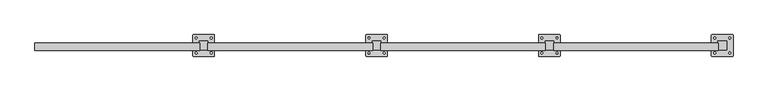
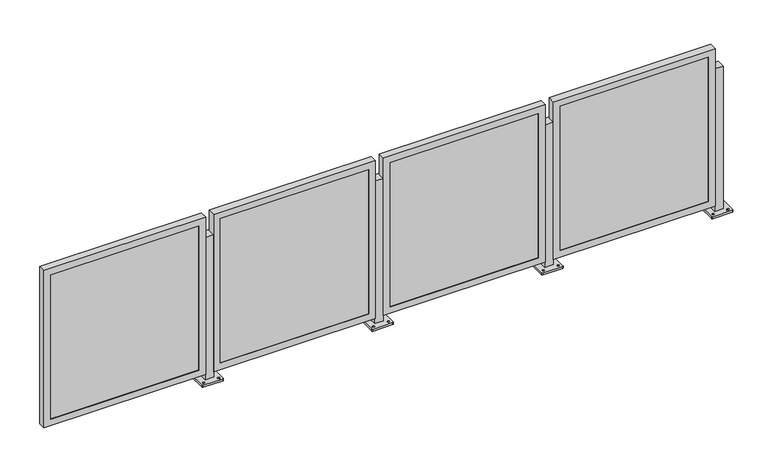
"""IFC4 building model written with IfcOpenShell, lengths in millimetres: railing geometry, Railing - Amico Architectural - Perforated Railing - Venetian."""

from ifc_helpers import new_model, si_unit, frame, origin, place, context, project, spatial, polyline, circle_curve, outline, extrude, faceted_brep, source, transform, mapped, element, save
from ifc_brep_helpers import plane_surface, cylinder_surface, revolved_surface, advanced_brep


def railing_f4e55a87(model_context):
    return source(origin(), model_context, "Body", "SolidModel", [
        advanced_brep(
        [(-7234.0306556, -6822.178618, 914.4), (-7234.0306556, -6872.978618, 914.4), (-7183.2306556, -6872.978618, 914.4), (-7183.2306556, -6822.178618, 914.4), (-7272.1306557, -6907.903577, 0.0), (-7272.1306557, -6787.2536591, 0.0), (-7268.9556276, -6784.0786309, 0.0), (-7148.3056836, -6784.0786309, 0.0), (-7145.1306554, -6787.2536591, 0.0), (-7145.1306554, -6907.903577, 0.0), (-7148.3056836, -6911.0786052, 0.0), (-7268.9556276, -6911.0786052, 0.0), (-7253.0806431, -6897.5848727, 0.0), (-7253.0806431, -6886.4723602, 0.0), (-7253.080654, -6808.6848683, 0.0), (-7253.080654, -6797.5723867, 0.0), (-7164.1806422, -6897.5848711, 0.0), (-7164.1806422, -6886.4723605, 0.0), (-7164.1806531, -6808.6848668, 0.0), (-7164.1806531, -6797.572387, 0.0), (-7234.0306556, -6822.178618, 12.7), (-7234.0306556, -6872.978618, 12.7), (-7183.2306556, -6872.978618, 12.7), (-7183.2306556, -6822.178618, 12.7), (-7272.1306557, -6907.903577, 12.7), (-7268.9556276, -6911.0786052, 12.7), (-7148.3056836, -6911.0786052, 12.7), (-7145.1306554, -6907.903577, 12.7), (-7145.1306554, -6787.2536591, 12.7), (-7148.3056836, -6784.0786309, 12.7), (-7268.9556276, -6784.0786309, 12.7), (-7272.1306557, -6787.2536591, 12.7), (-7253.0806431, -6897.5848727, 12.7), (-7253.0806431, -6886.4723602, 12.7), (-7253.080654, -6808.6848683, 12.7), (-7253.080654, -6797.5723867, 12.7), (-7164.1806422, -6897.5848711, 12.7), (-7164.1806422, -6886.4723605, 12.7), (-7164.1806531, -6808.6848668, 12.7), (-7164.1806531, -6797.572387, 12.7)],
        [
            (0, 1),
            (1, 2),
            (2, 3),
            (3, 0),
            (4, 5),
            (5, 6, circle_curve(frame((-7268.9556276, -6787.2536591, 0.0), z_axis=(0.0, 0.0, -1.0), x_axis=(0.0, 1.0, 0.0)), 3.1750282)),
            (6, 7),
            (7, 8, circle_curve(frame((-7148.3056836, -6787.2536591, 0.0), z_axis=(0.0, 0.0, -1.0), x_axis=(0.0, 1.0, 0.0)), 3.1750282)),
            (8, 9),
            (9, 10, circle_curve(frame((-7148.3056836, -6907.903577, 0.0), z_axis=(0.0, 0.0, -1.0), x_axis=(0.0, 1.0, 0.0)), 3.1750282)),
            (10, 11),
            (11, 4, circle_curve(frame((-7268.9556276, -6907.903577, 0.0), z_axis=(0.0, 0.0, -1.0), x_axis=(0.0, 1.0, 0.0)), 3.1750282)),
            (12, 13, circle_curve(frame((-7253.0806431, -6892.0286164, 0.0), z_axis=(0.0, 0.0, 1.0), x_axis=(0.0, 1.0, 0.0)), 5.5562562)),
            (13, 12, circle_curve(frame((-7253.0806431, -6892.0286164, 0.0), z_axis=(0.0, 0.0, 1.0), x_axis=(0.0, 1.0, 0.0)), 5.5562562)),
            (14, 15, circle_curve(frame((-7253.080654, -6803.1286275, 0.0), z_axis=(0.0, 0.0, 1.0), x_axis=(0.0, 1.0, 0.0)), 5.5562408)),
            (15, 14, circle_curve(frame((-7253.080654, -6803.1286275, 0.0), z_axis=(0.0, 0.0, 1.0), x_axis=(0.0, 1.0, 0.0)), 5.5562408)),
            (16, 17, circle_curve(frame((-7164.1806422, -6892.0286158, 0.0), z_axis=(0.0, 0.0, 1.0), x_axis=(0.0, 1.0, 0.0)), 5.5562553)),
            (17, 16, circle_curve(frame((-7164.1806422, -6892.0286158, 0.0), z_axis=(0.0, 0.0, 1.0), x_axis=(0.0, 1.0, 0.0)), 5.5562553)),
            (18, 19, circle_curve(frame((-7164.1806531, -6803.1286269, 0.0), z_axis=(0.0, 0.0, 1.0), x_axis=(0.0, 1.0, 0.0)), 5.5562399)),
            (19, 18, circle_curve(frame((-7164.1806531, -6803.1286269, 0.0), z_axis=(0.0, 0.0, 1.0), x_axis=(0.0, 1.0, 0.0)), 5.5562399)),
            (0, 20),
            (20, 21),
            (21, 1),
            (21, 22),
            (22, 2),
            (22, 23),
            (23, 3),
            (23, 20),
            (24, 25, circle_curve(frame((-7268.9556276, -6907.903577, 12.7), z_axis=(0.0, 0.0, 1.0), x_axis=(0.0, 1.0, 0.0)), 3.1750282)),
            (25, 26),
            (26, 27, circle_curve(frame((-7148.3056836, -6907.903577, 12.7), z_axis=(0.0, 0.0, 1.0), x_axis=(0.0, 1.0, 0.0)), 3.1750282)),
            (27, 28),
            (28, 29, circle_curve(frame((-7148.3056836, -6787.2536591, 12.7), z_axis=(0.0, 0.0, 1.0), x_axis=(0.0, 1.0, 0.0)), 3.1750282)),
            (29, 30),
            (30, 31, circle_curve(frame((-7268.9556276, -6787.2536591, 12.7), z_axis=(0.0, 0.0, 1.0), x_axis=(0.0, 1.0, 0.0)), 3.1750282)),
            (31, 24),
            (32, 33, circle_curve(frame((-7253.0806431, -6892.0286164, 12.7), z_axis=(0.0, 0.0, -1.0), x_axis=(0.0, 1.0, 0.0)), 5.5562562)),
            (33, 32, circle_curve(frame((-7253.0806431, -6892.0286164, 12.7), z_axis=(0.0, 0.0, -1.0), x_axis=(0.0, 1.0, 0.0)), 5.5562562)),
            (34, 35, circle_curve(frame((-7253.080654, -6803.1286275, 12.7), z_axis=(0.0, 0.0, -1.0), x_axis=(0.0, 1.0, 0.0)), 5.5562408)),
            (35, 34, circle_curve(frame((-7253.080654, -6803.1286275, 12.7), z_axis=(0.0, 0.0, -1.0), x_axis=(0.0, 1.0, 0.0)), 5.5562408)),
            (36, 37, circle_curve(frame((-7164.1806422, -6892.0286158, 12.7), z_axis=(0.0, 0.0, -1.0), x_axis=(0.0, 1.0, 0.0)), 5.5562553)),
            (37, 36, circle_curve(frame((-7164.1806422, -6892.0286158, 12.7), z_axis=(0.0, 0.0, -1.0), x_axis=(0.0, 1.0, 0.0)), 5.5562553)),
            (38, 39, circle_curve(frame((-7164.1806531, -6803.1286269, 12.7), z_axis=(0.0, 0.0, -1.0), x_axis=(0.0, 1.0, 0.0)), 5.5562399)),
            (39, 38, circle_curve(frame((-7164.1806531, -6803.1286269, 12.7), z_axis=(0.0, 0.0, -1.0), x_axis=(0.0, 1.0, 0.0)), 5.5562399)),
            (24, 4),
            (11, 25),
            (10, 26),
            (9, 27),
            (8, 28),
            (7, 29),
            (6, 30),
            (5, 31),
            (32, 12),
            (13, 33),
            (34, 14),
            (15, 35),
            (36, 16),
            (17, 37),
            (38, 18),
            (19, 39),
        ],
        [
            plane_surface(frame((-7234.0306556, -6872.978618, 914.4), z_axis=(0.0, 0.0, 1.0), x_axis=(0.0, -1.0, 0.0))),
            plane_surface(frame((-7234.0306556, -6872.978618, 0.0), z_axis=(0.0, 0.0, -1.0), x_axis=(0.0, 1.0, 0.0))),
            plane_surface(frame((-7234.0306556, -6822.178618, 914.4), z_axis=(-1.0, 0.0, 0.0), x_axis=(0.0, 0.0, -1.0))),
            plane_surface(frame((-7234.0306556, -6872.978618, 914.4), z_axis=(0.0, -1.0, 0.0), x_axis=(0.0, 0.0, -1.0))),
            plane_surface(frame((-7183.2306556, -6872.978618, 914.4), z_axis=(1.0, 0.0, 0.0), x_axis=(0.0, 0.0, -1.0))),
            plane_surface(frame((-7183.2306556, -6822.178618, 914.4), z_axis=(0.0, 1.0, 0.0), x_axis=(0.0, 0.0, -1.0))),
            plane_surface(frame((-7268.9556276, -6904.7285488, 12.7), z_axis=(0.0, 0.0, 1.0), x_axis=(-1.0, 0.0, 0.0))),
            cylinder_surface(frame((-7268.9556276, -6907.903577, 0.0), z_axis=(0.0, 0.0, 1.0), x_axis=(0.0, 1.0, 0.0)), 3.1750282),
            plane_surface(frame((-7268.9556276, -6911.0786052, 12.7), z_axis=(1.1945386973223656e-12, -1.0, 0.0), x_axis=(0.0, 0.0, -1.0))),
            cylinder_surface(frame((-7148.3056836, -6907.903577, 0.0), z_axis=(0.0, 0.0, 1.0), x_axis=(0.0, 1.0, 0.0)), 3.1750282),
            plane_surface(frame((-7145.1306554, -6907.903577, 12.7), z_axis=(1.0, 0.0, 0.0), x_axis=(0.0, 0.0, -1.0))),
            cylinder_surface(frame((-7148.3056836, -6787.2536591, 0.0), z_axis=(0.0, 0.0, 1.0), x_axis=(0.0, 1.0, 0.0)), 3.1750282),
            plane_surface(frame((-7148.3056836, -6784.0786309, 12.7), z_axis=(-1.1946088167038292e-12, 1.0, 0.0), x_axis=(0.0, 0.0, -1.0))),
            cylinder_surface(frame((-7268.9556276, -6787.2536591, 0.0), z_axis=(0.0, 0.0, 1.0), x_axis=(0.0, 1.0, 0.0)), 3.1750282),
            plane_surface(frame((-7272.1306557, -6787.2536591, 12.7), z_axis=(-1.0, 0.0, 0.0), x_axis=(0.0, 0.0, -1.0))),
            revolved_surface(polyline([(-7253.0806431, -6886.4723602, 0.0), (-7253.0806431, -6886.4723602, 12.7)]), (-7253.0806431, -6892.0286164, 0.0), (0.0, 0.0, -1.0)),
            revolved_surface(polyline([(-7253.080654, -6797.572386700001, 0.0), (-7253.080654, -6797.572386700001, 12.7)]), (-7253.080654, -6803.1286275, 0.0), (0.0, 0.0, -1.0)),
            revolved_surface(polyline([(-7164.1806422, -6886.4723605, 0.0), (-7164.1806422, -6886.4723605, 12.7)]), (-7164.1806422, -6892.0286158, 0.0), (0.0, 0.0, -1.0)),
            revolved_surface(polyline([(-7164.1806531, -6797.572387, 0.0), (-7164.1806531, -6797.572387, 12.7)]), (-7164.1806531, -6803.1286269, 0.0), (0.0, 0.0, -1.0)),
        ],
        [
            (0, [[1, 2, 3, 4]]),
            (1, [[5, 6, 7, 8, 9, 10, 11, 12], [13, 14], [15, 16], [17, 18], [19, 20]]),
            (2, [[-1, 21, 22, 23]]),
            (3, [[-2, -23, 24, 25]]),
            (4, [[-3, -25, 26, 27]]),
            (5, [[-4, -27, 28, -21]]),
            (6, [[29, 30, 31, 32, 33, 34, 35, 36], [-22, -28, -26, -24], [37, 38], [39, 40], [41, 42], [43, 44]]),
            (7, [[-29, 45, -12, 46]]),
            (8, [[-30, -46, -11, 47]]),
            (9, [[-31, -47, -10, 48]]),
            (10, [[-32, -48, -9, 49]]),
            (11, [[-33, -49, -8, 50]]),
            (12, [[-34, -50, -7, 51]]),
            (13, [[-35, -51, -6, 52]]),
            (14, [[-36, -52, -5, -45]]),
            (15, [[-37, 53, -14, 54]]),
            (15, [[-38, -54, -13, -53]]),
            (16, [[-39, 55, -16, 56]]),
            (16, [[-40, -56, -15, -55]]),
            (17, [[-41, 57, -18, 58]]),
            (17, [[-42, -58, -17, -57]]),
            (18, [[-43, 59, -20, 60]]),
            (18, [[-44, -60, -19, -59]]),
        ],
    ),
        faceted_brep([(-8200.435109, -6875.721818, 47.625), (-7232.060109, -6875.721818, 47.625), (-7232.060109, -6875.721818, 1044.575), (-8200.435109, -6875.721818, 1044.575), (-8159.160109, -6875.721818, 1003.3), (-7273.335109, -6875.721818, 1003.3), (-7273.335109, -6875.721818, 88.9), (-8159.160109, -6875.721818, 88.9), (-8159.160109, -6872.978618, 1003.3), (-8159.160109, -6872.978618, 88.9), (-8200.435109, -6831.8485215, 1044.575), (-8200.435109, -6831.8485215, 47.625), (-8197.260109, -6831.8485215, 1041.4), (-8197.260109, -6872.978618, 1041.4), (-8197.260109, -6872.978618, 50.8), (-8197.260109, -6831.8485215, 50.8), (-7273.335109, -6872.978618, 88.9), (-7232.060109, -6831.8485215, 47.625), (-7235.235109, -6872.978618, 50.8), (-7235.235109, -6831.8485215, 50.8), (-7273.335109, -6872.978618, 1003.3), (-7232.060109, -6831.8485215, 1044.575), (-7235.235109, -6872.978618, 1041.4), (-7235.235109, -6831.8485215, 1041.4)], [[[0, 1, 2, 3], [4, 5, 6, 7]], [[8, 4, 7, 9]], [[3, 10, 11, 0]], [[12, 13, 14, 15]], [[9, 7, 6, 16]], [[0, 11, 17, 1]], [[15, 14, 18, 19]], [[16, 6, 5, 20]], [[1, 17, 21, 2]], [[19, 18, 22, 23]], [[20, 5, 4, 8]], [[10, 21, 17, 11], [15, 19, 23, 12]], [[2, 21, 10, 3]], [[13, 22, 18, 14], [9, 16, 20, 8]], [[23, 22, 13, 12]]]),
        extrude(outline(polyline([(-8197.260109, -6863.453618), (-7235.235109, -6863.453618), (-7235.235109, -6872.978618), (-8197.260109, -6872.978618), (-8197.260109, -6863.453618)])), frame((0.0, 0.0, 50.8), z_axis=(0.0, 0.0, 1.0), x_axis=(1.0, 0.0, 0.0)), (0.0, 0.0, 1.0), 990.6),
        advanced_brep(
        [(-8250.0306556, -6822.178618, 914.4), (-8250.0306556, -6872.978618, 914.4), (-8199.2306556, -6872.978618, 914.4), (-8199.2306556, -6822.178618, 914.4), (-8288.1306557, -6907.903577, 0.0), (-8288.1306557, -6787.2536591, 0.0), (-8284.9556276, -6784.0786309, 0.0), (-8164.3056836, -6784.0786309, 0.0), (-8161.1306554, -6787.2536591, 0.0), (-8161.1306554, -6907.903577, 0.0), (-8164.3056836, -6911.0786052, 0.0), (-8284.9556276, -6911.0786052, 0.0), (-8269.0806431, -6897.5848727, 0.0), (-8269.0806431, -6886.4723602, 0.0), (-8269.080654, -6808.6848683, 0.0), (-8269.080654, -6797.5723867, 0.0), (-8180.1806422, -6897.5848711, 0.0), (-8180.1806422, -6886.4723605, 0.0), (-8180.1806531, -6808.6848668, 0.0), (-8180.1806531, -6797.572387, 0.0), (-8250.0306556, -6822.178618, 12.7), (-8250.0306556, -6872.978618, 12.7), (-8199.2306556, -6872.978618, 12.7), (-8199.2306556, -6822.178618, 12.7), (-8288.1306557, -6907.903577, 12.7), (-8284.9556276, -6911.0786052, 12.7), (-8164.3056836, -6911.0786052, 12.7), (-8161.1306554, -6907.903577, 12.7), (-8161.1306554, -6787.2536591, 12.7), (-8164.3056836, -6784.0786309, 12.7), (-8284.9556276, -6784.0786309, 12.7), (-8288.1306557, -6787.2536591, 12.7), (-8269.0806431, -6897.5848727, 12.7), (-8269.0806431, -6886.4723602, 12.7), (-8269.080654, -6808.6848683, 12.7), (-8269.080654, -6797.5723867, 12.7), (-8180.1806422, -6897.5848711, 12.7), (-8180.1806422, -6886.4723605, 12.7), (-8180.1806531, -6808.6848668, 12.7), (-8180.1806531, -6797.572387, 12.7)],
        [
            (0, 1),
            (1, 2),
            (2, 3),
            (3, 0),
            (4, 5),
            (5, 6, circle_curve(frame((-8284.9556276, -6787.2536591, 0.0), z_axis=(0.0, 0.0, -1.0), x_axis=(0.0, 1.0, 0.0)), 3.1750282)),
            (6, 7),
            (7, 8, circle_curve(frame((-8164.3056836, -6787.2536591, 0.0), z_axis=(0.0, 0.0, -1.0), x_axis=(0.0, 1.0, 0.0)), 3.1750282)),
            (8, 9),
            (9, 10, circle_curve(frame((-8164.3056836, -6907.903577, 0.0), z_axis=(0.0, 0.0, -1.0), x_axis=(0.0, 1.0, 0.0)), 3.1750282)),
            (10, 11),
            (11, 4, circle_curve(frame((-8284.9556276, -6907.903577, 0.0), z_axis=(0.0, 0.0, -1.0), x_axis=(0.0, 1.0, 0.0)), 3.1750282)),
            (12, 13, circle_curve(frame((-8269.0806431, -6892.0286164, 0.0), z_axis=(0.0, 0.0, 1.0), x_axis=(0.0, 1.0, 0.0)), 5.5562562)),
            (13, 12, circle_curve(frame((-8269.0806431, -6892.0286164, 0.0), z_axis=(0.0, 0.0, 1.0), x_axis=(0.0, 1.0, 0.0)), 5.5562562)),
            (14, 15, circle_curve(frame((-8269.080654, -6803.1286275, 0.0), z_axis=(0.0, 0.0, 1.0), x_axis=(0.0, 1.0, 0.0)), 5.5562408)),
            (15, 14, circle_curve(frame((-8269.080654, -6803.1286275, 0.0), z_axis=(0.0, 0.0, 1.0), x_axis=(0.0, 1.0, 0.0)), 5.5562408)),
            (16, 17, circle_curve(frame((-8180.1806422, -6892.0286158, 0.0), z_axis=(0.0, 0.0, 1.0), x_axis=(0.0, 1.0, 0.0)), 5.5562553)),
            (17, 16, circle_curve(frame((-8180.1806422, -6892.0286158, 0.0), z_axis=(0.0, 0.0, 1.0), x_axis=(0.0, 1.0, 0.0)), 5.5562553)),
            (18, 19, circle_curve(frame((-8180.1806531, -6803.1286269, 0.0), z_axis=(0.0, 0.0, 1.0), x_axis=(0.0, 1.0, 0.0)), 5.5562399)),
            (19, 18, circle_curve(frame((-8180.1806531, -6803.1286269, 0.0), z_axis=(0.0, 0.0, 1.0), x_axis=(0.0, 1.0, 0.0)), 5.5562399)),
            (0, 20),
            (20, 21),
            (21, 1),
            (21, 22),
            (22, 2),
            (22, 23),
            (23, 3),
            (23, 20),
            (24, 25, circle_curve(frame((-8284.9556276, -6907.903577, 12.7), z_axis=(0.0, 0.0, 1.0), x_axis=(0.0, 1.0, 0.0)), 3.1750282)),
            (25, 26),
            (26, 27, circle_curve(frame((-8164.3056836, -6907.903577, 12.7), z_axis=(0.0, 0.0, 1.0), x_axis=(0.0, 1.0, 0.0)), 3.1750282)),
            (27, 28),
            (28, 29, circle_curve(frame((-8164.3056836, -6787.2536591, 12.7), z_axis=(0.0, 0.0, 1.0), x_axis=(0.0, 1.0, 0.0)), 3.1750282)),
            (29, 30),
            (30, 31, circle_curve(frame((-8284.9556276, -6787.2536591, 12.7), z_axis=(0.0, 0.0, 1.0), x_axis=(0.0, 1.0, 0.0)), 3.1750282)),
            (31, 24),
            (32, 33, circle_curve(frame((-8269.0806431, -6892.0286164, 12.7), z_axis=(0.0, 0.0, -1.0), x_axis=(0.0, 1.0, 0.0)), 5.5562562)),
            (33, 32, circle_curve(frame((-8269.0806431, -6892.0286164, 12.7), z_axis=(0.0, 0.0, -1.0), x_axis=(0.0, 1.0, 0.0)), 5.5562562)),
            (34, 35, circle_curve(frame((-8269.080654, -6803.1286275, 12.7), z_axis=(0.0, 0.0, -1.0), x_axis=(0.0, 1.0, 0.0)), 5.5562408)),
            (35, 34, circle_curve(frame((-8269.080654, -6803.1286275, 12.7), z_axis=(0.0, 0.0, -1.0), x_axis=(0.0, 1.0, 0.0)), 5.5562408)),
            (36, 37, circle_curve(frame((-8180.1806422, -6892.0286158, 12.7), z_axis=(0.0, 0.0, -1.0), x_axis=(0.0, 1.0, 0.0)), 5.5562553)),
            (37, 36, circle_curve(frame((-8180.1806422, -6892.0286158, 12.7), z_axis=(0.0, 0.0, -1.0), x_axis=(0.0, 1.0, 0.0)), 5.5562553)),
            (38, 39, circle_curve(frame((-8180.1806531, -6803.1286269, 12.7), z_axis=(0.0, 0.0, -1.0), x_axis=(0.0, 1.0, 0.0)), 5.5562399)),
            (39, 38, circle_curve(frame((-8180.1806531, -6803.1286269, 12.7), z_axis=(0.0, 0.0, -1.0), x_axis=(0.0, 1.0, 0.0)), 5.5562399)),
            (24, 4),
            (11, 25),
            (10, 26),
            (9, 27),
            (8, 28),
            (7, 29),
            (6, 30),
            (5, 31),
            (32, 12),
            (13, 33),
            (34, 14),
            (15, 35),
            (36, 16),
            (17, 37),
            (38, 18),
            (19, 39),
        ],
        [
            plane_surface(frame((-8250.0306556, -6872.978618, 914.4), z_axis=(0.0, 0.0, 1.0), x_axis=(0.0, -1.0, 0.0))),
            plane_surface(frame((-8250.0306556, -6872.978618, 0.0), z_axis=(0.0, 0.0, -1.0), x_axis=(0.0, 1.0, 0.0))),
            plane_surface(frame((-8250.0306556, -6822.178618, 914.4), z_axis=(-1.0, 0.0, 0.0), x_axis=(0.0, 0.0, -1.0))),
            plane_surface(frame((-8250.0306556, -6872.978618, 914.4), z_axis=(0.0, -1.0, 0.0), x_axis=(0.0, 0.0, -1.0))),
            plane_surface(frame((-8199.2306556, -6872.978618, 914.4), z_axis=(1.0, 0.0, 0.0), x_axis=(0.0, 0.0, -1.0))),
            plane_surface(frame((-8199.2306556, -6822.178618, 914.4), z_axis=(0.0, 1.0, 0.0), x_axis=(0.0, 0.0, -1.0))),
            plane_surface(frame((-8284.9556276, -6904.7285488, 12.7), z_axis=(0.0, 0.0, 1.0), x_axis=(-1.0, 0.0, 0.0))),
            cylinder_surface(frame((-8284.9556276, -6907.903577, 0.0), z_axis=(0.0, 0.0, 1.0), x_axis=(0.0, 1.0, 0.0)), 3.1750282),
            plane_surface(frame((-8284.9556276, -6911.0786052, 12.7), z_axis=(1.1945386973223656e-12, -1.0, 0.0), x_axis=(0.0, 0.0, -1.0))),
            cylinder_surface(frame((-8164.3056836, -6907.903577, 0.0), z_axis=(0.0, 0.0, 1.0), x_axis=(0.0, 1.0, 0.0)), 3.1750282),
            plane_surface(frame((-8161.1306554, -6907.903577, 12.7), z_axis=(1.0, 0.0, 0.0), x_axis=(0.0, 0.0, -1.0))),
            cylinder_surface(frame((-8164.3056836, -6787.2536591, 0.0), z_axis=(0.0, 0.0, 1.0), x_axis=(0.0, 1.0, 0.0)), 3.1750282),
            plane_surface(frame((-8164.3056836, -6784.0786309, 12.7), z_axis=(-1.1946088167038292e-12, 1.0, 0.0), x_axis=(0.0, 0.0, -1.0))),
            cylinder_surface(frame((-8284.9556276, -6787.2536591, 0.0), z_axis=(0.0, 0.0, 1.0), x_axis=(0.0, 1.0, 0.0)), 3.1750282),
            plane_surface(frame((-8288.1306557, -6787.2536591, 12.7), z_axis=(-1.0, 0.0, 0.0), x_axis=(0.0, 0.0, -1.0))),
            revolved_surface(polyline([(-8269.0806431, -6886.4723602, 0.0), (-8269.0806431, -6886.4723602, 12.7)]), (-8269.0806431, -6892.0286164, 0.0), (0.0, 0.0, -1.0)),
            revolved_surface(polyline([(-8269.080654, -6797.572386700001, 0.0), (-8269.080654, -6797.572386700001, 12.7)]), (-8269.080654, -6803.1286275, 0.0), (0.0, 0.0, -1.0)),
            revolved_surface(polyline([(-8180.1806422, -6886.4723605, 0.0), (-8180.1806422, -6886.4723605, 12.7)]), (-8180.1806422, -6892.0286158, 0.0), (0.0, 0.0, -1.0)),
            revolved_surface(polyline([(-8180.1806531, -6797.572387, 0.0), (-8180.1806531, -6797.572387, 12.7)]), (-8180.1806531, -6803.1286269, 0.0), (0.0, 0.0, -1.0)),
        ],
        [
            (0, [[1, 2, 3, 4]]),
            (1, [[5, 6, 7, 8, 9, 10, 11, 12], [13, 14], [15, 16], [17, 18], [19, 20]]),
            (2, [[-1, 21, 22, 23]]),
            (3, [[-2, -23, 24, 25]]),
            (4, [[-3, -25, 26, 27]]),
            (5, [[-4, -27, 28, -21]]),
            (6, [[29, 30, 31, 32, 33, 34, 35, 36], [-22, -28, -26, -24], [37, 38], [39, 40], [41, 42], [43, 44]]),
            (7, [[-29, 45, -12, 46]]),
            (8, [[-30, -46, -11, 47]]),
            (9, [[-31, -47, -10, 48]]),
            (10, [[-32, -48, -9, 49]]),
            (11, [[-33, -49, -8, 50]]),
            (12, [[-34, -50, -7, 51]]),
            (13, [[-35, -51, -6, 52]]),
            (14, [[-36, -52, -5, -45]]),
            (15, [[-37, 53, -14, 54]]),
            (15, [[-38, -54, -13, -53]]),
            (16, [[-39, 55, -16, 56]]),
            (16, [[-40, -56, -15, -55]]),
            (17, [[-41, 57, -18, 58]]),
            (17, [[-42, -58, -17, -57]]),
            (18, [[-43, 59, -20, 60]]),
            (18, [[-44, -60, -19, -59]]),
        ],
    ),
        faceted_brep([(-9216.435109, -6875.721818, 47.625), (-8248.060109, -6875.721818, 47.625), (-8248.060109, -6875.721818, 1044.575), (-9216.435109, -6875.721818, 1044.575), (-9175.160109, -6875.721818, 1003.3), (-8289.335109, -6875.721818, 1003.3), (-8289.335109, -6875.721818, 88.9), (-9175.160109, -6875.721818, 88.9), (-9175.160109, -6872.978618, 1003.3), (-9175.160109, -6872.978618, 88.9), (-9216.435109, -6831.8485215, 1044.575), (-9216.435109, -6831.8485215, 47.625), (-9213.260109, -6831.8485215, 1041.4), (-9213.260109, -6872.978618, 1041.4), (-9213.260109, -6872.978618, 50.8), (-9213.260109, -6831.8485215, 50.8), (-8289.335109, -6872.978618, 88.9), (-8248.060109, -6831.8485215, 47.625), (-8251.235109, -6872.978618, 50.8), (-8251.235109, -6831.8485215, 50.8), (-8289.335109, -6872.978618, 1003.3), (-8248.060109, -6831.8485215, 1044.575), (-8251.235109, -6872.978618, 1041.4), (-8251.235109, -6831.8485215, 1041.4)], [[[0, 1, 2, 3], [4, 5, 6, 7]], [[8, 4, 7, 9]], [[3, 10, 11, 0]], [[12, 13, 14, 15]], [[9, 7, 6, 16]], [[0, 11, 17, 1]], [[15, 14, 18, 19]], [[16, 6, 5, 20]], [[1, 17, 21, 2]], [[19, 18, 22, 23]], [[20, 5, 4, 8]], [[10, 21, 17, 11], [15, 19, 23, 12]], [[2, 21, 10, 3]], [[13, 22, 18, 14], [9, 16, 20, 8]], [[23, 22, 13, 12]]]),
        extrude(outline(polyline([(-9213.260109, -6863.453618), (-8251.235109, -6863.453618), (-8251.235109, -6872.978618), (-9213.260109, -6872.978618), (-9213.260109, -6863.453618)])), frame((0.0, 0.0, 50.8), z_axis=(0.0, 0.0, 1.0), x_axis=(1.0, 0.0, 0.0)), (0.0, 0.0, 1.0), 990.6),
        advanced_brep(
        [(-9266.0306556, -6822.178618, 914.4), (-9266.0306556, -6872.978618, 914.4), (-9215.2306556, -6872.978618, 914.4), (-9215.2306556, -6822.178618, 914.4), (-9304.1306557, -6907.903577, 0.0), (-9304.1306557, -6787.2536591, 0.0), (-9300.9556276, -6784.0786309, 0.0), (-9180.3056836, -6784.0786309, 0.0), (-9177.1306554, -6787.2536591, 0.0), (-9177.1306554, -6907.903577, 0.0), (-9180.3056836, -6911.0786052, 0.0), (-9300.9556276, -6911.0786052, 0.0), (-9285.0806431, -6897.5848727, 0.0), (-9285.0806431, -6886.4723602, 0.0), (-9285.080654, -6808.6848683, 0.0), (-9285.080654, -6797.5723867, 0.0), (-9196.1806422, -6897.5848711, 0.0), (-9196.1806422, -6886.4723605, 0.0), (-9196.1806531, -6808.6848668, 0.0), (-9196.1806531, -6797.572387, 0.0), (-9266.0306556, -6822.178618, 12.7), (-9266.0306556, -6872.978618, 12.7), (-9215.2306556, -6872.978618, 12.7), (-9215.2306556, -6822.178618, 12.7), (-9304.1306557, -6907.903577, 12.7), (-9300.9556276, -6911.0786052, 12.7), (-9180.3056836, -6911.0786052, 12.7), (-9177.1306554, -6907.903577, 12.7), (-9177.1306554, -6787.2536591, 12.7), (-9180.3056836, -6784.0786309, 12.7), (-9300.9556276, -6784.0786309, 12.7), (-9304.1306557, -6787.2536591, 12.7), (-9285.0806431, -6897.5848727, 12.7), (-9285.0806431, -6886.4723602, 12.7), (-9285.080654, -6808.6848683, 12.7), (-9285.080654, -6797.5723867, 12.7), (-9196.1806422, -6897.5848711, 12.7), (-9196.1806422, -6886.4723605, 12.7), (-9196.1806531, -6808.6848668, 12.7), (-9196.1806531, -6797.572387, 12.7)],
        [
            (0, 1),
            (1, 2),
            (2, 3),
            (3, 0),
            (4, 5),
            (5, 6, circle_curve(frame((-9300.9556276, -6787.2536591, 0.0), z_axis=(0.0, 0.0, -1.0), x_axis=(0.0, 1.0, 0.0)), 3.1750282)),
            (6, 7),
            (7, 8, circle_curve(frame((-9180.3056836, -6787.2536591, 0.0), z_axis=(0.0, 0.0, -1.0), x_axis=(0.0, 1.0, 0.0)), 3.1750282)),
            (8, 9),
            (9, 10, circle_curve(frame((-9180.3056836, -6907.903577, 0.0), z_axis=(0.0, 0.0, -1.0), x_axis=(0.0, 1.0, 0.0)), 3.1750282)),
            (10, 11),
            (11, 4, circle_curve(frame((-9300.9556276, -6907.903577, 0.0), z_axis=(0.0, 0.0, -1.0), x_axis=(0.0, 1.0, 0.0)), 3.1750282)),
            (12, 13, circle_curve(frame((-9285.0806431, -6892.0286164, 0.0), z_axis=(0.0, 0.0, 1.0), x_axis=(0.0, 1.0, 0.0)), 5.5562562)),
            (13, 12, circle_curve(frame((-9285.0806431, -6892.0286164, 0.0), z_axis=(0.0, 0.0, 1.0), x_axis=(0.0, 1.0, 0.0)), 5.5562562)),
            (14, 15, circle_curve(frame((-9285.080654, -6803.1286275, 0.0), z_axis=(0.0, 0.0, 1.0), x_axis=(0.0, 1.0, 0.0)), 5.5562408)),
            (15, 14, circle_curve(frame((-9285.080654, -6803.1286275, 0.0), z_axis=(0.0, 0.0, 1.0), x_axis=(0.0, 1.0, 0.0)), 5.5562408)),
            (16, 17, circle_curve(frame((-9196.1806422, -6892.0286158, 0.0), z_axis=(0.0, 0.0, 1.0), x_axis=(0.0, 1.0, 0.0)), 5.5562553)),
            (17, 16, circle_curve(frame((-9196.1806422, -6892.0286158, 0.0), z_axis=(0.0, 0.0, 1.0), x_axis=(0.0, 1.0, 0.0)), 5.5562553)),
            (18, 19, circle_curve(frame((-9196.1806531, -6803.1286269, 0.0), z_axis=(0.0, 0.0, 1.0), x_axis=(0.0, 1.0, 0.0)), 5.5562399)),
            (19, 18, circle_curve(frame((-9196.1806531, -6803.1286269, 0.0), z_axis=(0.0, 0.0, 1.0), x_axis=(0.0, 1.0, 0.0)), 5.5562399)),
            (0, 20),
            (20, 21),
            (21, 1),
            (21, 22),
            (22, 2),
            (22, 23),
            (23, 3),
            (23, 20),
            (24, 25, circle_curve(frame((-9300.9556276, -6907.903577, 12.7), z_axis=(0.0, 0.0, 1.0), x_axis=(0.0, 1.0, 0.0)), 3.1750282)),
            (25, 26),
            (26, 27, circle_curve(frame((-9180.3056836, -6907.903577, 12.7), z_axis=(0.0, 0.0, 1.0), x_axis=(0.0, 1.0, 0.0)), 3.1750282)),
            (27, 28),
            (28, 29, circle_curve(frame((-9180.3056836, -6787.2536591, 12.7), z_axis=(0.0, 0.0, 1.0), x_axis=(0.0, 1.0, 0.0)), 3.1750282)),
            (29, 30),
            (30, 31, circle_curve(frame((-9300.9556276, -6787.2536591, 12.7), z_axis=(0.0, 0.0, 1.0), x_axis=(0.0, 1.0, 0.0)), 3.1750282)),
            (31, 24),
            (32, 33, circle_curve(frame((-9285.0806431, -6892.0286164, 12.7), z_axis=(0.0, 0.0, -1.0), x_axis=(0.0, 1.0, 0.0)), 5.5562562)),
            (33, 32, circle_curve(frame((-9285.0806431, -6892.0286164, 12.7), z_axis=(0.0, 0.0, -1.0), x_axis=(0.0, 1.0, 0.0)), 5.5562562)),
            (34, 35, circle_curve(frame((-9285.080654, -6803.1286275, 12.7), z_axis=(0.0, 0.0, -1.0), x_axis=(0.0, 1.0, 0.0)), 5.5562408)),
            (35, 34, circle_curve(frame((-9285.080654, -6803.1286275, 12.7), z_axis=(0.0, 0.0, -1.0), x_axis=(0.0, 1.0, 0.0)), 5.5562408)),
            (36, 37, circle_curve(frame((-9196.1806422, -6892.0286158, 12.7), z_axis=(0.0, 0.0, -1.0), x_axis=(0.0, 1.0, 0.0)), 5.5562553)),
            (37, 36, circle_curve(frame((-9196.1806422, -6892.0286158, 12.7), z_axis=(0.0, 0.0, -1.0), x_axis=(0.0, 1.0, 0.0)), 5.5562553)),
            (38, 39, circle_curve(frame((-9196.1806531, -6803.1286269, 12.7), z_axis=(0.0, 0.0, -1.0), x_axis=(0.0, 1.0, 0.0)), 5.5562399)),
            (39, 38, circle_curve(frame((-9196.1806531, -6803.1286269, 12.7), z_axis=(0.0, 0.0, -1.0), x_axis=(0.0, 1.0, 0.0)), 5.5562399)),
            (24, 4),
            (11, 25),
            (10, 26),
            (9, 27),
            (8, 28),
            (7, 29),
            (6, 30),
            (5, 31),
            (32, 12),
            (13, 33),
            (34, 14),
            (15, 35),
            (36, 16),
            (17, 37),
            (38, 18),
            (19, 39),
        ],
        [
            plane_surface(frame((-9266.0306556, -6872.978618, 914.4), z_axis=(0.0, 0.0, 1.0), x_axis=(0.0, -1.0, 0.0))),
            plane_surface(frame((-9266.0306556, -6872.978618, 0.0), z_axis=(0.0, 0.0, -1.0), x_axis=(0.0, 1.0, 0.0))),
            plane_surface(frame((-9266.0306556, -6822.178618, 914.4), z_axis=(-1.0, 0.0, 0.0), x_axis=(0.0, 0.0, -1.0))),
            plane_surface(frame((-9266.0306556, -6872.978618, 914.4), z_axis=(0.0, -1.0, 0.0), x_axis=(0.0, 0.0, -1.0))),
            plane_surface(frame((-9215.2306556, -6872.978618, 914.4), z_axis=(1.0, 0.0, 0.0), x_axis=(0.0, 0.0, -1.0))),
            plane_surface(frame((-9215.2306556, -6822.178618, 914.4), z_axis=(0.0, 1.0, 0.0), x_axis=(0.0, 0.0, -1.0))),
            plane_surface(frame((-9300.9556276, -6904.7285488, 12.7), z_axis=(0.0, 0.0, 1.0), x_axis=(-1.0, 0.0, 0.0))),
            cylinder_surface(frame((-9300.9556276, -6907.903577, 0.0), z_axis=(0.0, 0.0, 1.0), x_axis=(0.0, 1.0, 0.0)), 3.1750282),
            plane_surface(frame((-9300.9556276, -6911.0786052, 12.7), z_axis=(1.1945386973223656e-12, -1.0, 0.0), x_axis=(0.0, 0.0, -1.0))),
            cylinder_surface(frame((-9180.3056836, -6907.903577, 0.0), z_axis=(0.0, 0.0, 1.0), x_axis=(0.0, 1.0, 0.0)), 3.1750282),
            plane_surface(frame((-9177.1306554, -6907.903577, 12.7), z_axis=(1.0, 0.0, 0.0), x_axis=(0.0, 0.0, -1.0))),
            cylinder_surface(frame((-9180.3056836, -6787.2536591, 0.0), z_axis=(0.0, 0.0, 1.0), x_axis=(0.0, 1.0, 0.0)), 3.1750282),
            plane_surface(frame((-9180.3056836, -6784.0786309, 12.7), z_axis=(-1.1946088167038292e-12, 1.0, 0.0), x_axis=(0.0, 0.0, -1.0))),
            cylinder_surface(frame((-9300.9556276, -6787.2536591, 0.0), z_axis=(0.0, 0.0, 1.0), x_axis=(0.0, 1.0, 0.0)), 3.1750282),
            plane_surface(frame((-9304.1306557, -6787.2536591, 12.7), z_axis=(-1.0, 0.0, 0.0), x_axis=(0.0, 0.0, -1.0))),
            revolved_surface(polyline([(-9285.0806431, -6886.4723602, 0.0), (-9285.0806431, -6886.4723602, 12.7)]), (-9285.0806431, -6892.0286164, 0.0), (0.0, 0.0, -1.0)),
            revolved_surface(polyline([(-9285.080654, -6797.572386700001, 0.0), (-9285.080654, -6797.572386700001, 12.7)]), (-9285.080654, -6803.1286275, 0.0), (0.0, 0.0, -1.0)),
            revolved_surface(polyline([(-9196.1806422, -6886.4723605, 0.0), (-9196.1806422, -6886.4723605, 12.7)]), (-9196.1806422, -6892.0286158, 0.0), (0.0, 0.0, -1.0)),
            revolved_surface(polyline([(-9196.1806531, -6797.572387, 0.0), (-9196.1806531, -6797.572387, 12.7)]), (-9196.1806531, -6803.1286269, 0.0), (0.0, 0.0, -1.0)),
        ],
        [
            (0, [[1, 2, 3, 4]]),
            (1, [[5, 6, 7, 8, 9, 10, 11, 12], [13, 14], [15, 16], [17, 18], [19, 20]]),
            (2, [[-1, 21, 22, 23]]),
            (3, [[-2, -23, 24, 25]]),
            (4, [[-3, -25, 26, 27]]),
            (5, [[-4, -27, 28, -21]]),
            (6, [[29, 30, 31, 32, 33, 34, 35, 36], [-22, -28, -26, -24], [37, 38], [39, 40], [41, 42], [43, 44]]),
            (7, [[-29, 45, -12, 46]]),
            (8, [[-30, -46, -11, 47]]),
            (9, [[-31, -47, -10, 48]]),
            (10, [[-32, -48, -9, 49]]),
            (11, [[-33, -49, -8, 50]]),
            (12, [[-34, -50, -7, 51]]),
            (13, [[-35, -51, -6, 52]]),
            (14, [[-36, -52, -5, -45]]),
            (15, [[-37, 53, -14, 54]]),
            (15, [[-38, -54, -13, -53]]),
            (16, [[-39, 55, -16, 56]]),
            (16, [[-40, -56, -15, -55]]),
            (17, [[-41, 57, -18, 58]]),
            (17, [[-42, -58, -17, -57]]),
            (18, [[-43, 59, -20, 60]]),
            (18, [[-44, -60, -19, -59]]),
        ],
    ),
        faceted_brep([(-10232.435109, -6875.721818, 47.625), (-9264.060109, -6875.721818, 47.625), (-9264.060109, -6875.721818, 1044.575), (-10232.435109, -6875.721818, 1044.575), (-10191.160109, -6875.721818, 1003.3), (-9305.335109, -6875.721818, 1003.3), (-9305.335109, -6875.721818, 88.9), (-10191.160109, -6875.721818, 88.9), (-10191.160109, -6872.978618, 1003.3), (-10191.160109, -6872.978618, 88.9), (-10232.435109, -6831.8485215, 1044.575), (-10232.435109, -6831.8485215, 47.625), (-10229.260109, -6831.8485215, 1041.4), (-10229.260109, -6872.978618, 1041.4), (-10229.260109, -6872.978618, 50.8), (-10229.260109, -6831.8485215, 50.8), (-9305.335109, -6872.978618, 88.9), (-9264.060109, -6831.8485215, 47.625), (-9267.235109, -6872.978618, 50.8), (-9267.235109, -6831.8485215, 50.8), (-9305.335109, -6872.978618, 1003.3), (-9264.060109, -6831.8485215, 1044.575), (-9267.235109, -6872.978618, 1041.4), (-9267.235109, -6831.8485215, 1041.4)], [[[0, 1, 2, 3], [4, 5, 6, 7]], [[8, 4, 7, 9]], [[3, 10, 11, 0]], [[12, 13, 14, 15]], [[9, 7, 6, 16]], [[0, 11, 17, 1]], [[15, 14, 18, 19]], [[16, 6, 5, 20]], [[1, 17, 21, 2]], [[19, 18, 22, 23]], [[20, 5, 4, 8]], [[10, 21, 17, 11], [15, 19, 23, 12]], [[2, 21, 10, 3]], [[13, 22, 18, 14], [9, 16, 20, 8]], [[23, 22, 13, 12]]]),
        extrude(outline(polyline([(-10229.260109, -6863.453618), (-9267.235109, -6863.453618), (-9267.235109, -6872.978618), (-10229.260109, -6872.978618), (-10229.260109, -6863.453618)])), frame((0.0, 0.0, 50.8), z_axis=(0.0, 0.0, 1.0), x_axis=(1.0, 0.0, 0.0)), (0.0, 0.0, 1.0), 990.6),
        advanced_brep(
        [(-10282.0306556, -6822.178618, 914.4), (-10282.0306556, -6872.978618, 914.4), (-10231.2306556, -6872.978618, 914.4), (-10231.2306556, -6822.178618, 914.4), (-10320.1306557, -6907.903577, 0.0), (-10320.1306557, -6787.2536591, 0.0), (-10316.9556276, -6784.0786309, 0.0), (-10196.3056836, -6784.0786309, 0.0), (-10193.1306554, -6787.2536591, 0.0), (-10193.1306554, -6907.903577, 0.0), (-10196.3056836, -6911.0786052, 0.0), (-10316.9556276, -6911.0786052, 0.0), (-10301.0806431, -6897.5848727, 0.0), (-10301.0806431, -6886.4723602, 0.0), (-10301.080654, -6808.6848683, 0.0), (-10301.080654, -6797.5723867, 0.0), (-10212.1806422, -6897.5848711, 0.0), (-10212.1806422, -6886.4723605, 0.0), (-10212.1806531, -6808.6848668, 0.0), (-10212.1806531, -6797.572387, 0.0), (-10282.0306556, -6822.178618, 12.7), (-10282.0306556, -6872.978618, 12.7), (-10231.2306556, -6872.978618, 12.7), (-10231.2306556, -6822.178618, 12.7), (-10320.1306557, -6907.903577, 12.7), (-10316.9556276, -6911.0786052, 12.7), (-10196.3056836, -6911.0786052, 12.7), (-10193.1306554, -6907.903577, 12.7), (-10193.1306554, -6787.2536591, 12.7), (-10196.3056836, -6784.0786309, 12.7), (-10316.9556276, -6784.0786309, 12.7), (-10320.1306557, -6787.2536591, 12.7), (-10301.0806431, -6897.5848727, 12.7), (-10301.0806431, -6886.4723602, 12.7), (-10301.080654, -6808.6848683, 12.7), (-10301.080654, -6797.5723867, 12.7), (-10212.1806422, -6897.5848711, 12.7), (-10212.1806422, -6886.4723605, 12.7), (-10212.1806531, -6808.6848668, 12.7), (-10212.1806531, -6797.572387, 12.7)],
        [
            (0, 1),
            (1, 2),
            (2, 3),
            (3, 0),
            (4, 5),
            (5, 6, circle_curve(frame((-10316.9556276, -6787.2536591, 0.0), z_axis=(0.0, 0.0, -1.0), x_axis=(0.0, 1.0, 0.0)), 3.1750282)),
            (6, 7),
            (7, 8, circle_curve(frame((-10196.3056836, -6787.2536591, 0.0), z_axis=(0.0, 0.0, -1.0), x_axis=(0.0, 1.0, 0.0)), 3.1750282)),
            (8, 9),
            (9, 10, circle_curve(frame((-10196.3056836, -6907.903577, 0.0), z_axis=(0.0, 0.0, -1.0), x_axis=(0.0, 1.0, 0.0)), 3.1750282)),
            (10, 11),
            (11, 4, circle_curve(frame((-10316.9556276, -6907.903577, 0.0), z_axis=(0.0, 0.0, -1.0), x_axis=(0.0, 1.0, 0.0)), 3.1750282)),
            (12, 13, circle_curve(frame((-10301.0806431, -6892.0286164, 0.0), z_axis=(0.0, 0.0, 1.0), x_axis=(0.0, 1.0, 0.0)), 5.5562562)),
            (13, 12, circle_curve(frame((-10301.0806431, -6892.0286164, 0.0), z_axis=(0.0, 0.0, 1.0), x_axis=(0.0, 1.0, 0.0)), 5.5562562)),
            (14, 15, circle_curve(frame((-10301.080654, -6803.1286275, 0.0), z_axis=(0.0, 0.0, 1.0), x_axis=(0.0, 1.0, 0.0)), 5.5562408)),
            (15, 14, circle_curve(frame((-10301.080654, -6803.1286275, 0.0), z_axis=(0.0, 0.0, 1.0), x_axis=(0.0, 1.0, 0.0)), 5.5562408)),
            (16, 17, circle_curve(frame((-10212.1806422, -6892.0286158, 0.0), z_axis=(0.0, 0.0, 1.0), x_axis=(0.0, 1.0, 0.0)), 5.5562553)),
            (17, 16, circle_curve(frame((-10212.1806422, -6892.0286158, 0.0), z_axis=(0.0, 0.0, 1.0), x_axis=(0.0, 1.0, 0.0)), 5.5562553)),
            (18, 19, circle_curve(frame((-10212.1806531, -6803.1286269, 0.0), z_axis=(0.0, 0.0, 1.0), x_axis=(0.0, 1.0, 0.0)), 5.5562399)),
            (19, 18, circle_curve(frame((-10212.1806531, -6803.1286269, 0.0), z_axis=(0.0, 0.0, 1.0), x_axis=(0.0, 1.0, 0.0)), 5.5562399)),
            (0, 20),
            (20, 21),
            (21, 1),
            (21, 22),
            (22, 2),
            (22, 23),
            (23, 3),
            (23, 20),
            (24, 25, circle_curve(frame((-10316.9556276, -6907.903577, 12.7), z_axis=(0.0, 0.0, 1.0), x_axis=(0.0, 1.0, 0.0)), 3.1750282)),
            (25, 26),
            (26, 27, circle_curve(frame((-10196.3056836, -6907.903577, 12.7), z_axis=(0.0, 0.0, 1.0), x_axis=(0.0, 1.0, 0.0)), 3.1750282)),
            (27, 28),
            (28, 29, circle_curve(frame((-10196.3056836, -6787.2536591, 12.7), z_axis=(0.0, 0.0, 1.0), x_axis=(0.0, 1.0, 0.0)), 3.1750282)),
            (29, 30),
            (30, 31, circle_curve(frame((-10316.9556276, -6787.2536591, 12.7), z_axis=(0.0, 0.0, 1.0), x_axis=(0.0, 1.0, 0.0)), 3.1750282)),
            (31, 24),
            (32, 33, circle_curve(frame((-10301.0806431, -6892.0286164, 12.7), z_axis=(0.0, 0.0, -1.0), x_axis=(0.0, 1.0, 0.0)), 5.5562562)),
            (33, 32, circle_curve(frame((-10301.0806431, -6892.0286164, 12.7), z_axis=(0.0, 0.0, -1.0), x_axis=(0.0, 1.0, 0.0)), 5.5562562)),
            (34, 35, circle_curve(frame((-10301.080654, -6803.1286275, 12.7), z_axis=(0.0, 0.0, -1.0), x_axis=(0.0, 1.0, 0.0)), 5.5562408)),
            (35, 34, circle_curve(frame((-10301.080654, -6803.1286275, 12.7), z_axis=(0.0, 0.0, -1.0), x_axis=(0.0, 1.0, 0.0)), 5.5562408)),
            (36, 37, circle_curve(frame((-10212.1806422, -6892.0286158, 12.7), z_axis=(0.0, 0.0, -1.0), x_axis=(0.0, 1.0, 0.0)), 5.5562553)),
            (37, 36, circle_curve(frame((-10212.1806422, -6892.0286158, 12.7), z_axis=(0.0, 0.0, -1.0), x_axis=(0.0, 1.0, 0.0)), 5.5562553)),
            (38, 39, circle_curve(frame((-10212.1806531, -6803.1286269, 12.7), z_axis=(0.0, 0.0, -1.0), x_axis=(0.0, 1.0, 0.0)), 5.5562399)),
            (39, 38, circle_curve(frame((-10212.1806531, -6803.1286269, 12.7), z_axis=(0.0, 0.0, -1.0), x_axis=(0.0, 1.0, 0.0)), 5.5562399)),
            (24, 4),
            (11, 25),
            (10, 26),
            (9, 27),
            (8, 28),
            (7, 29),
            (6, 30),
            (5, 31),
            (32, 12),
            (13, 33),
            (34, 14),
            (15, 35),
            (36, 16),
            (17, 37),
            (38, 18),
            (19, 39),
        ],
        [
            plane_surface(frame((-10282.0306556, -6872.978618, 914.4), z_axis=(0.0, 0.0, 1.0), x_axis=(0.0, -1.0, 0.0))),
            plane_surface(frame((-10282.0306556, -6872.978618, 0.0), z_axis=(0.0, 0.0, -1.0), x_axis=(0.0, 1.0, 0.0))),
            plane_surface(frame((-10282.0306556, -6822.178618, 914.4), z_axis=(-1.0, 0.0, 0.0), x_axis=(0.0, 0.0, -1.0))),
            plane_surface(frame((-10282.0306556, -6872.978618, 914.4), z_axis=(0.0, -1.0, 0.0), x_axis=(0.0, 0.0, -1.0))),
            plane_surface(frame((-10231.2306556, -6872.978618, 914.4), z_axis=(1.0, 0.0, 0.0), x_axis=(0.0, 0.0, -1.0))),
            plane_surface(frame((-10231.2306556, -6822.178618, 914.4), z_axis=(0.0, 1.0, 0.0), x_axis=(0.0, 0.0, -1.0))),
            plane_surface(frame((-10316.9556276, -6904.7285488, 12.7), z_axis=(0.0, 0.0, 1.0), x_axis=(-1.0, 0.0, 0.0))),
            cylinder_surface(frame((-10316.9556276, -6907.903577, 0.0), z_axis=(0.0, 0.0, 1.0), x_axis=(0.0, 1.0, 0.0)), 3.1750282),
            plane_surface(frame((-10316.9556276, -6911.0786052, 12.7), z_axis=(1.1945386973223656e-12, -1.0, 0.0), x_axis=(0.0, 0.0, -1.0))),
            cylinder_surface(frame((-10196.3056836, -6907.903577, 0.0), z_axis=(0.0, 0.0, 1.0), x_axis=(0.0, 1.0, 0.0)), 3.1750282),
            plane_surface(frame((-10193.1306554, -6907.903577, 12.7), z_axis=(1.0, 0.0, 0.0), x_axis=(0.0, 0.0, -1.0))),
            cylinder_surface(frame((-10196.3056836, -6787.2536591, 0.0), z_axis=(0.0, 0.0, 1.0), x_axis=(0.0, 1.0, 0.0)), 3.1750282),
            plane_surface(frame((-10196.3056836, -6784.0786309, 12.7), z_axis=(-1.1946088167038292e-12, 1.0, 0.0), x_axis=(0.0, 0.0, -1.0))),
            cylinder_surface(frame((-10316.9556276, -6787.2536591, 0.0), z_axis=(0.0, 0.0, 1.0), x_axis=(0.0, 1.0, 0.0)), 3.1750282),
            plane_surface(frame((-10320.1306557, -6787.2536591, 12.7), z_axis=(-1.0, 0.0, 0.0), x_axis=(0.0, 0.0, -1.0))),
            revolved_surface(polyline([(-10301.0806431, -6886.4723602, 0.0), (-10301.0806431, -6886.4723602, 12.7)]), (-10301.0806431, -6892.0286164, 0.0), (0.0, 0.0, -1.0)),
            revolved_surface(polyline([(-10301.080654, -6797.572386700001, 0.0), (-10301.080654, -6797.572386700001, 12.7)]), (-10301.080654, -6803.1286275, 0.0), (0.0, 0.0, -1.0)),
            revolved_surface(polyline([(-10212.1806422, -6886.4723605, 0.0), (-10212.1806422, -6886.4723605, 12.7)]), (-10212.1806422, -6892.0286158, 0.0), (0.0, 0.0, -1.0)),
            revolved_surface(polyline([(-10212.1806531, -6797.572387, 0.0), (-10212.1806531, -6797.572387, 12.7)]), (-10212.1806531, -6803.1286269, 0.0), (0.0, 0.0, -1.0)),
        ],
        [
            (0, [[1, 2, 3, 4]]),
            (1, [[5, 6, 7, 8, 9, 10, 11, 12], [13, 14], [15, 16], [17, 18], [19, 20]]),
            (2, [[-1, 21, 22, 23]]),
            (3, [[-2, -23, 24, 25]]),
            (4, [[-3, -25, 26, 27]]),
            (5, [[-4, -27, 28, -21]]),
            (6, [[29, 30, 31, 32, 33, 34, 35, 36], [-22, -28, -26, -24], [37, 38], [39, 40], [41, 42], [43, 44]]),
            (7, [[-29, 45, -12, 46]]),
            (8, [[-30, -46, -11, 47]]),
            (9, [[-31, -47, -10, 48]]),
            (10, [[-32, -48, -9, 49]]),
            (11, [[-33, -49, -8, 50]]),
            (12, [[-34, -50, -7, 51]]),
            (13, [[-35, -51, -6, 52]]),
            (14, [[-36, -52, -5, -45]]),
            (15, [[-37, 53, -14, 54]]),
            (15, [[-38, -54, -13, -53]]),
            (16, [[-39, 55, -16, 56]]),
            (16, [[-40, -56, -15, -55]]),
            (17, [[-41, 57, -18, 58]]),
            (17, [[-42, -58, -17, -57]]),
            (18, [[-43, 59, -20, 60]]),
            (18, [[-44, -60, -19, -59]]),
        ],
    ),
        faceted_brep([(-11248.435109, -6875.721818, 47.625), (-10280.060109, -6875.721818, 47.625), (-10280.060109, -6875.721818, 1044.575), (-11248.435109, -6875.721818, 1044.575), (-11207.160109, -6875.721818, 1003.3), (-10321.335109, -6875.721818, 1003.3), (-10321.335109, -6875.721818, 88.9), (-11207.160109, -6875.721818, 88.9), (-11207.160109, -6872.978618, 1003.3), (-11207.160109, -6872.978618, 88.9), (-11248.435109, -6831.8485215, 1044.575), (-11248.435109, -6831.8485215, 47.625), (-11245.260109, -6831.8485215, 1041.4), (-11245.260109, -6872.978618, 1041.4), (-11245.260109, -6872.978618, 50.8), (-11245.260109, -6831.8485215, 50.8), (-10321.335109, -6872.978618, 88.9), (-10280.060109, -6831.8485215, 47.625), (-10283.235109, -6872.978618, 50.8), (-10283.235109, -6831.8485215, 50.8), (-10321.335109, -6872.978618, 1003.3), (-10280.060109, -6831.8485215, 1044.575), (-10283.235109, -6872.978618, 1041.4), (-10283.235109, -6831.8485215, 1041.4)], [[[0, 1, 2, 3], [4, 5, 6, 7]], [[8, 4, 7, 9]], [[3, 10, 11, 0]], [[12, 13, 14, 15]], [[9, 7, 6, 16]], [[0, 11, 17, 1]], [[15, 14, 18, 19]], [[16, 6, 5, 20]], [[1, 17, 21, 2]], [[19, 18, 22, 23]], [[20, 5, 4, 8]], [[10, 21, 17, 11], [15, 19, 23, 12]], [[2, 21, 10, 3]], [[13, 22, 18, 14], [9, 16, 20, 8]], [[23, 22, 13, 12]]]),
        extrude(outline(polyline([(-11245.260109, -6863.453618), (-10283.235109, -6863.453618), (-10283.235109, -6872.978618), (-11245.260109, -6872.978618), (-11245.260109, -6863.453618)])), frame((0.0, 0.0, 50.8), z_axis=(0.0, 0.0, 1.0), x_axis=(1.0, 0.0, 0.0)), (0.0, 0.0, 1.0), 990.6),
    ])


if __name__ == "__main__":
    model = new_model("IFC4")
    model_context = context("Model", 3, world=origin())
    ifc_project = project(units=[si_unit("LENGTHUNIT", "METRE", prefix="MILLI")], contexts=[model_context])
    site = spatial("IfcSite", under=ifc_project)
    building = spatial("IfcBuilding", under=site)
    placement = place(None, origin())
    railing_shape = railing_f4e55a87(model_context)
    element("IfcRailing", 1, ObjectType="Railing - Amico Architectural - Perforated Railing - Venetian", at=placement, inside=building, context=model_context, shape_type="MappedRepresentation", body=[
        mapped(railing_shape, transform((0.0, 0.0, 0.0), x_axis=(1.0, 0.0, 0.0), y_axis=(0.0, 1.0, 0.0), z_axis=(0.0, 0.0, 1.0))),
    ])
    save(model, "model.ifc")
